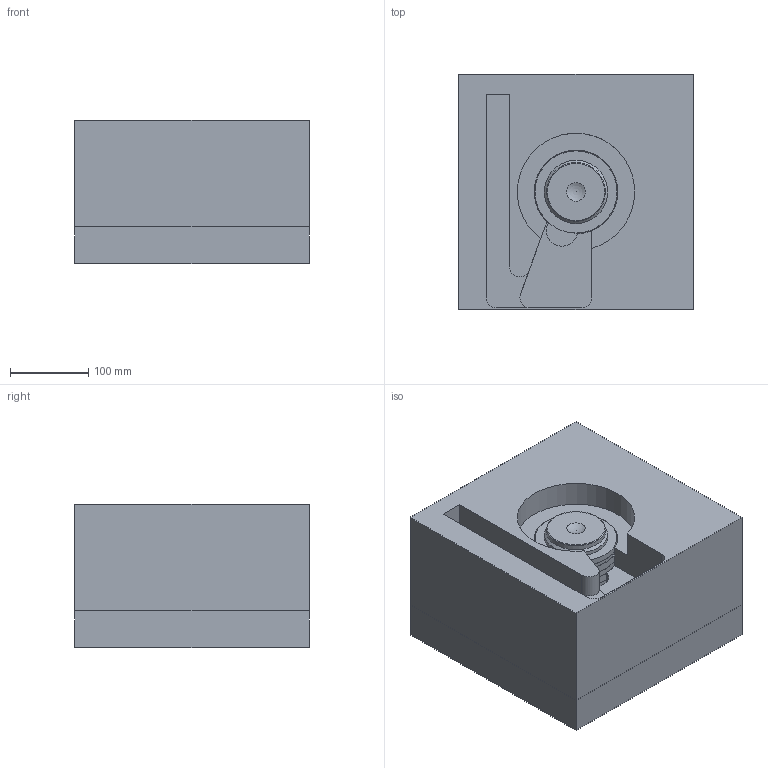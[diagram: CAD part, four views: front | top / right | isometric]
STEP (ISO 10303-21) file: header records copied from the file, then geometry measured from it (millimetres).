
FILE_DESCRIPTION( ( 'STEP AP214' ), '1' );
FILE_NAME( 'S:/PROIECTE_YUDO_2009_dupa_1.07.2009/PROIECTE YUDO 3D 01.07.2009/SAS/YUEU09-SAS32LVF151_4/YUEU09-SAS32LVF151.step', '2009-08-20T13:33:15', ( ' ' ), ( ' ' ), 'XStep 1.0', ' ', ' ' );
FILE_SCHEMA( ( 'automotive_design' ) );
Length unit declared in the file: millimetre
Products named in the file (6): 1; 2; 3; 4; 5; 6
Bounding box: 300 x 300 x 184 mm (x, y, z)
Volume: 15252402 mm3; surface area: 743832.1 mm2
Topology: 6 solids, 6 shells, 124 faces, 241 edges, 154 vertices
Faces by surface type: plane 57, cylinder 45, cone 16, torus 5, sphere 1
Full cylindrical faces by diameter (mm): 4 x2, 6 x6, 16 x2, 20 x1, 26 x1, 31 x1, 32 x3, 32.1 x1, 38 x2, 44 x1, 47 x2, 57 x2, 64 x2, 75 x1, 81 x1, 104 x4, 105 x5
Entity records: 3921 total; most frequent: DIRECTION 542, CARTESIAN_POINT 459, ORIENTED_EDGE 352, AXIS2_PLACEMENT_3D 238, EDGE_LOOP 215, EDGE_CURVE 176, FACE_OUTER_BOUND 166, VERTEX_POINT 147
